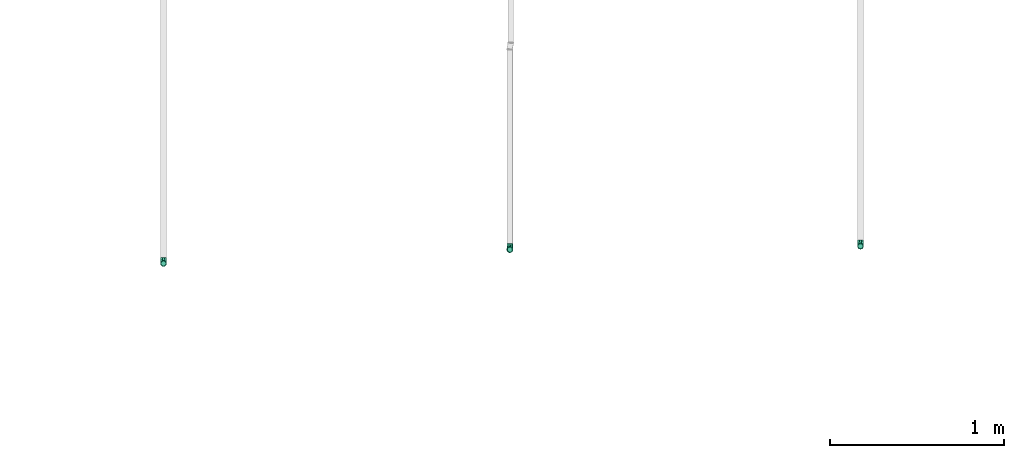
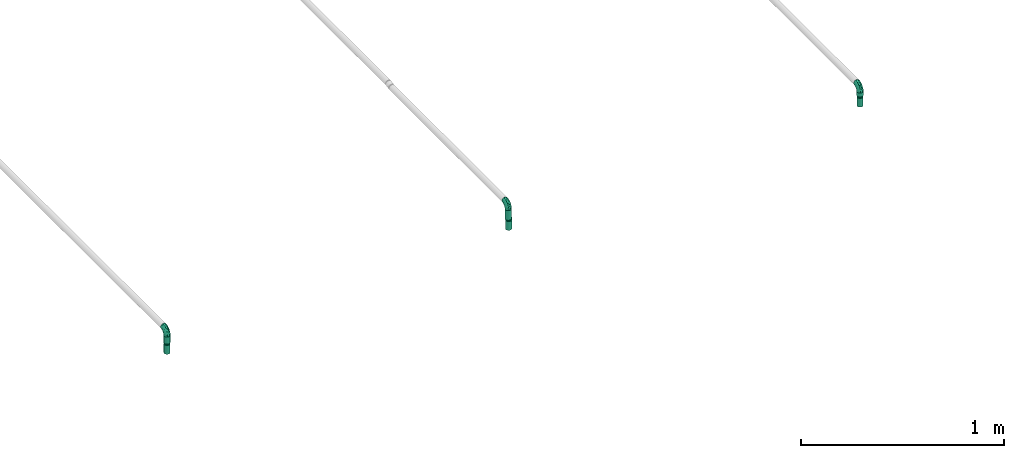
# One storey, part 18 of 32: 6 flow fittings, 3 flow segments, 3 flow terminals.
"""IFC2X3 building model written with IfcOpenShell, lengths in millimetres."""

from ifc_helpers import new_model, entity, si_unit, converted_unit, derived_unit, direction, frame, origin_with_axes, origin_2d_with_axis, place, context, subcontext, project, spatial, hollow_circle, extrude, open_shell, surface_model, source, transform, mapped, type_object, element, save


model = new_model("IFC2X3")

# Units and contexts
model_context = context("Model", 3, precision=0.01, world=frame((0.0, 4.29681676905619e-09, 0.0)), true_north=direction((4.01073788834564e-13, 1.0)))
plan_context = context("Plan", 3, precision=0.01, world=frame((0.0, 4.29681676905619e-09, 0.0)), true_north=direction((4.01073788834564e-13, 1.0)))
body_context = subcontext(model_context, "Body", "Model", "MODEL_VIEW")
ifc_project = project(units=[converted_unit("PLANEANGLEUNIT", "DEGREE", entity("IfcPositiveLengthMeasure", 0.0174532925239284), si_unit("PLANEANGLEUNIT", "RADIAN"), dimensions=[0, 0, 0, 0, 0, 0, 0]), si_unit("AREAUNIT", "SQUARE_METRE"), si_unit("LENGTHUNIT", "METRE", prefix="MILLI"), si_unit("MASSUNIT", "GRAM", prefix="KILO"), si_unit("POWERUNIT", "WATT"), si_unit("PRESSUREUNIT", "PASCAL", prefix="KILO"), si_unit("FORCEUNIT", "NEWTON", prefix="KILO"), si_unit("ELECTRICVOLTAGEUNIT", "VOLT"), si_unit("ELECTRICCURRENTUNIT", "AMPERE"), si_unit("THERMODYNAMICTEMPERATUREUNIT", "DEGREE_CELSIUS"), si_unit("TIMEUNIT", "SECOND"), si_unit("VOLUMEUNIT", "CUBIC_METRE"), derived_unit("LINEARVELOCITYUNIT", [(si_unit("LENGTHUNIT", "METRE"), 1), (si_unit("TIMEUNIT", "SECOND"), -1)]), derived_unit("VOLUMETRICFLOWRATEUNIT", [(si_unit("VOLUMEUNIT", "CUBIC_METRE"), 1), (si_unit("TIMEUNIT", "SECOND"), -1)]), derived_unit("THERMALTRANSMITTANCEUNIT", [(si_unit("POWERUNIT", "WATT"), 1), (si_unit("THERMODYNAMICTEMPERATUREUNIT", "KELVIN"), -1), (si_unit("AREAUNIT", "SQUARE_METRE"), -1)]), derived_unit("SOUNDPRESSUREUNIT", [(si_unit("PRESSUREUNIT", "PASCAL"), 1)])], contexts=[model_context, plan_context])

# Site, building, storey
site_placement = place(None, frame((0.0, -4.29681676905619e-09, 0.0), z_axis=(0.0, 0.0, 1.0), x_axis=(1.0, 0.0, 0.0)))
site = spatial("IfcSite", under=ifc_project, at=site_placement, CompositionType="ELEMENT")
building_placement = place(site_placement, frame((0.0, 4.29681676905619e-09, 0.0), z_axis=(0.0, 0.0, 1.0), x_axis=(1.0, 0.0, 0.0)))
building = spatial("IfcBuilding", under=site, at=building_placement, Name="mc-building", CompositionType="ELEMENT")
storey_placement = place(building_placement, frame((0.0, 0.0, 205200.0), z_axis=(0.0, 0.0, 1.0), x_axis=(1.0, 0.0, 0.0)))
storey = spatial("IfcBuildingStorey", under=building, at=storey_placement, Name="Nivå D + 1,2 m", CompositionType="ELEMENT", Elevation=205200.0)

# Flow fittings
pipe_fitting_type_1 = type_object("IfcPipeFittingType", Name="magi_pipe_fe_elbow_short_001", PredefinedType="BEND")
shared_shape_1 = source(origin_with_axes(), body_context, "Body", "SurfaceModel", [
    surface_model("IfcShellBasedSurfaceModel", [(-33.8, -11.9501, -11.9501), (-33.8, -14.63583, -8.45), (-33.8, -8.45, -14.63583), (-33.8, 0.0, -16.9), (-33.8, -4.37404, -16.32415), (-33.8, -16.32415, -4.37404), (-33.8, -16.9, 0.0), (-33.8, 11.9501, 11.9501), (-33.8, 14.63583, 8.45), (-33.8, 8.45, 14.63583), (-33.8, -11.9501, 11.9501), (-33.8, -8.45, 14.63583), (-33.8, -14.63583, 8.45), (-33.8, -16.32415, 4.37404), (-33.8, -4.37404, 16.32415), (-33.8, 0.0, 16.9), (-33.8, 16.9, 0.0), (-33.8, 16.32415, -4.37404), (-33.8, 16.32415, 4.37404), (-33.8, 4.37404, -16.32415), (-33.8, 8.45, -14.63583), (-33.8, 14.63583, -8.45), (-33.8, 11.9501, -11.9501), (-33.8, 4.37404, 16.32415), (-4.37404, 33.8, -16.32415), (16.9, 33.8, 0.0), (0.0, 33.8, -16.9), (-16.32415, 33.8, -4.37404), (-8.45, 33.8, -14.63583), (-14.63583, 33.8, -8.45), (-11.9501, 33.8, -11.9501), (16.32415, 33.8, 4.37404), (8.45, 33.8, -14.63583), (14.63583, 33.8, -8.45), (11.9501, 33.8, -11.9501), (4.37404, 33.8, -16.32415), (16.32415, 33.8, -4.37404), (-16.32415, 33.8, 4.37404), (-4.37404, 33.8, 16.32415), (-14.63583, 33.8, 8.45), (-8.45, 33.8, 14.63583), (-11.9501, 33.8, 11.9501), (14.63583, 33.8, 8.45), (8.45, 33.8, 14.63583), (11.9501, 33.8, 11.9501), (0.0, 33.8, 16.9), (4.37404, 33.8, 16.32415), (-16.9, 33.8, 0.0), (-24.79389, -13.12945, 9.48721), (-22.19287, -9.75018, 12.59315), (-24.09897, -14.97035, 0.0), (-14.93934, -10.76256, 8.5297), (-22.46095, -14.75051, 5.27077), (14.75051, 22.46094, 5.27077), (11.9251, 13.23888, 4.33236), (13.04069, 14.39795, 0.0), (7.71387, 13.68847, 11.55891), (9.75018, 22.19287, 12.59315), (4.10169, 13.0571, 14.04018), (-24.84007, -6.39063, 15.2048), (-25.81779, -2.23879, 16.61097), (-23.66549, 2.59054, 16.87119), (-26.50418, 14.06512, 11.08152), (-24.21253, 17.66365, 7.72657), (-29.58514, 15.86957, 7.00283), (-6.17382, -7.5455, 0.0), (-13.23888, -11.9251, 4.33236), (-14.39795, -13.04069, 0.0), (-17.81434, 18.87373, 11.97104), (-6.30846, 29.15138, 15.82987), (-2.31622, 25.28002, 16.85849), (-29.23923, 10.23435, 13.77053), (-1.45439, -2.85688, 7.61475), (-0.28326, 0.34872, 10.09509), (-5.74484, -4.04709, 10.4122), (-4.41137, 11.31918, 16.59407), (-8.39727, 3.10034, 15.7812), (-1.72649, 9.1306, 15.53089), (-17.39909, 24.75344, 7.64977), (-26.19233, 20.0512, 0.0), (-28.14518, 17.29657, 4.25857), (-26.05147, 6.6281, 15.96447), (-5.87354, 16.61944, 16.86968), (-12.51807, 12.51807, 16.48937), (-10.06312, 7.38516, 16.81295), (-3.01882, 3.01882, 13.81718), (-13.0571, -4.10169, 14.04018), (-16.82553, -0.15166, 16.38038), (10.76256, 14.93934, 8.5297), (13.12945, 24.79389, 9.48721), (6.39063, 24.84007, 15.2048), (2.23879, 25.81779, 16.61097), (-13.68847, -7.71387, 11.55891), (14.97035, 24.09897, 0.0), (-7.30894, 22.89991, 16.09489), (-10.67958, 26.17414, 14.008), (-12.78295, 18.26924, 15.06066), (-13.88562, 22.45231, 12.93244), (-18.04944, 15.16501, 14.04434), (-23.11658, 20.08178, 4.02986), (-21.84989, 21.84989, 0.0), (-18.55817, 25.48277, 3.93065), (-13.95142, 26.94732, 11.03289), (-18.57098, 7.23906, 16.59756), (-16.58335, 4.14122, 16.89279), (-17.96666, 11.46709, 15.63151), (-9.84453, 17.54304, 16.18938), (0.15166, 16.82553, 16.38038), (-23.27207, 11.47201, 14.23154), (3.84842, 5.86994, 10.70473), (-8.0212, -7.54413, 7.93275), (1.00345, -2.19508, 4.57414), (5.13203, 3.01004, 5.90201), (5.24161, 1.7543, 2.53265), (8.70457, 7.04947, 3.99182), (-20.0512, 26.19233, 0.0), (8.4852, 8.76699, 7.09296), (-4.55488, -6.72064, 4.90681), (2.05031, -2.05031, 0.0), (7.5455, 6.17382, 0.0), (-26.75399, 2.1369, -16.845), (-14.61995, 24.73803, -11.27736), (-28.45274, -13.45335, -9.81895), (-26.00469, 6.63555, -15.96645), (-23.06726, 20.04573, -4.26202), (-13.80647, -4.26506, -14.17873), (-14.67501, -0.21081, -16.07388), (-6.7902, -0.2828, -13.8478), (-24.53586, 11.08096, -14.13417), (-26.72048, 14.00837, -11.05776), (10.0967, 24.44989, -12.75976), (5.83237, 21.40218, -15.03047), (6.66249, 28.54238, -15.38093), (-20.38182, 15.48705, -12.74596), (12.53268, 21.23441, -9.15363), (12.54494, 15.67504, -5.54878), (9.7522, 12.89279, -8.66343), (-15.65186, 19.64213, -13.01327), (-12.03528, 20.66498, -14.67665), (-15.61907, 15.61906, -14.83879), (-25.56551, -15.26206, 0.0), (-24.65452, -15.12934, -5.50955), (13.45335, 28.45274, -9.81895), (15.12934, 24.65452, -5.50955), (-7.35442, -8.31014, -5.65563), (-15.67504, -12.54494, -5.54878), (-24.44989, -10.0967, -12.75976), (0.16522, 0.41303, -9.71728), (-5.70658, -5.33066, -8.89288), (-5.13869, -2.37198, -11.53565), (-21.23441, -12.53268, -9.15363), (0.71146, 7.93863, -14.09382), (0.21081, 14.67501, -16.07388), (3.49291, 14.42772, -14.76381), (-24.89911, -2.13088, -16.591), (-28.54238, -6.66249, -15.38093), (-18.44386, -7.71663, -13.26957), (2.13088, 24.89911, -16.591), (-28.64342, 17.44413, -2.89318), (1.70017, -1.28722, -5.09504), (-16.57067, 26.81947, -7.36596), (-17.69055, 27.4263, -3.76405), (-12.89279, -9.7522, -8.66343), (-5.96611, 5.96611, -15.95814), (-20.53709, 20.09345, -8.28985), (-2.1369, 26.75399, -16.845), (-6.89872, 24.58781, -16.02578), (-10.60739, 26.53157, -13.98044), (-21.40218, -5.83237, -15.03047), (2.93192, 5.89627, -11.55917), (6.89393, 12.61842, -11.82233), (5.58056, 5.95325, -8.79455), (-3.99512, 18.61798, -16.89635), (8.31014, 7.35442, -5.65563), (-9.1383, 9.86148, -16.89041), (-9.99983, 16.02119, -16.39699), (-16.68576, 9.78031, -16.34199), (-27.01915, 16.61158, -7.12979), (15.26206, 25.56551, 0.0), (-18.61798, 3.99512, -16.89635), (-19.37495, 27.82495, 0.0), (-12.61842, -6.89393, -11.82233), (-18.84705, 19.14018, -10.96545)], [open_shell([[[0, 1, 2]], [[3, 4, 2]], [[5, 6, 1]], [[7, 8, 9]], [[10, 11, 12]], [[13, 12, 11]], [[14, 15, 11]], [[16, 17, 18]], [[3, 6, 19]], [[20, 19, 17]], [[20, 17, 21]], [[22, 20, 21]], [[17, 19, 6]], [[2, 1, 6]], [[2, 6, 3]], [[6, 18, 17]], [[23, 18, 6]], [[8, 18, 23]], [[8, 23, 9]], [[13, 23, 6]], [[23, 13, 11]], [[11, 15, 23]], [[24, 25, 26]], [[27, 24, 28]], [[29, 27, 28]], [[29, 28, 30]], [[31, 25, 24]], [[32, 33, 34]], [[32, 35, 26]], [[33, 25, 36]], [[33, 32, 26]], [[25, 33, 26]], [[24, 27, 37]], [[31, 24, 37]], [[38, 37, 39]], [[40, 38, 39]], [[40, 39, 41]], [[31, 37, 38]], [[42, 43, 44]], [[43, 42, 31]], [[43, 45, 46]], [[43, 31, 38]], [[38, 45, 43]], [[37, 27, 47]], [[10, 48, 49]], [[13, 6, 50]], [[51, 48, 52]], [[53, 54, 55]], [[48, 10, 12]], [[13, 52, 12]], [[56, 57, 58]], [[49, 11, 10]], [[49, 59, 11]], [[15, 60, 61]], [[62, 63, 64]], [[65, 66, 67]], [[57, 44, 43]], [[62, 68, 63]], [[38, 69, 70]], [[9, 71, 7]], [[14, 60, 15]], [[72, 73, 74]], [[75, 76, 77]], [[7, 62, 8]], [[39, 37, 78]], [[79, 16, 80]], [[64, 18, 8]], [[15, 61, 23]], [[23, 81, 9]], [[82, 83, 84]], [[74, 85, 86]], [[59, 86, 87]], [[88, 89, 57]], [[90, 43, 46]], [[42, 53, 31]], [[46, 45, 91]], [[54, 53, 88]], [[42, 89, 53]], [[92, 86, 49]], [[89, 42, 44]], [[11, 59, 14]], [[53, 55, 93]], [[93, 31, 53]], [[66, 52, 67]], [[94, 82, 70]], [[95, 96, 94]], [[97, 98, 96]], [[79, 99, 100]], [[40, 41, 95]], [[101, 100, 99]], [[68, 78, 63]], [[38, 40, 69]], [[16, 18, 80]], [[95, 94, 69]], [[78, 101, 99]], [[41, 102, 95]], [[70, 45, 38]], [[97, 95, 102]], [[13, 50, 52]], [[90, 57, 43]], [[57, 90, 58]], [[81, 23, 61]], [[103, 104, 84]], [[105, 81, 103]], [[41, 39, 102]], [[106, 96, 83]], [[94, 106, 82]], [[91, 70, 107]], [[71, 62, 7]], [[62, 108, 98]], [[86, 59, 49]], [[67, 52, 50]], [[60, 59, 87]], [[92, 49, 51]], [[86, 85, 76]], [[91, 90, 46]], [[25, 31, 93]], [[107, 77, 58]], [[107, 58, 90]], [[58, 85, 109]], [[110, 74, 92]], [[72, 74, 110]], [[66, 51, 52]], [[72, 111, 112]], [[113, 114, 112]], [[56, 88, 57]], [[52, 48, 12]], [[49, 48, 51]], [[57, 89, 44]], [[53, 89, 88]], [[103, 81, 61]], [[71, 81, 108]], [[18, 64, 80]], [[63, 78, 99]], [[47, 115, 101]], [[101, 115, 100]], [[39, 78, 102]], [[68, 102, 78]], [[97, 96, 95]], [[105, 98, 108]], [[103, 84, 83]], [[107, 70, 82]], [[76, 84, 87]], [[82, 84, 75]], [[70, 91, 45]], [[90, 91, 107]], [[59, 60, 14]], [[61, 60, 87]], [[73, 85, 74]], [[109, 112, 116]], [[103, 61, 104]], [[105, 103, 83]], [[96, 105, 83]], [[81, 105, 108]], [[96, 98, 105]], [[62, 98, 68]], [[61, 87, 104]], [[87, 84, 104]], [[86, 76, 87]], [[77, 76, 85]], [[58, 77, 85]], [[75, 77, 107]], [[82, 75, 107]], [[76, 75, 84]], [[81, 71, 9]], [[62, 71, 108]], [[95, 69, 40]], [[70, 69, 94]], [[62, 64, 8]], [[80, 63, 99]], [[63, 80, 64]], [[80, 99, 79]], [[66, 65, 117]], [[110, 66, 117]], [[112, 114, 116]], [[118, 117, 65]], [[110, 92, 51]], [[112, 111, 113]], [[119, 55, 54]], [[74, 86, 92]], [[58, 109, 56]], [[116, 56, 109]], [[66, 110, 51]], [[72, 110, 117]], [[111, 72, 117]], [[73, 112, 109]], [[117, 118, 111]], [[113, 111, 118]], [[118, 119, 113]], [[114, 119, 54]], [[119, 114, 113]], [[116, 54, 88]], [[54, 116, 114]], [[116, 88, 56]], [[112, 73, 72]], [[85, 73, 109]], [[78, 37, 101]], [[47, 101, 37]], [[102, 68, 97]], [[97, 68, 98]], [[82, 106, 83]], [[94, 96, 106]], [[19, 120, 3]], [[29, 30, 121]], [[0, 122, 1]], [[20, 123, 19]], [[100, 124, 79]], [[125, 126, 127]], [[128, 22, 129]], [[130, 131, 132]], [[128, 129, 133]], [[134, 135, 136]], [[137, 138, 139]], [[128, 20, 22]], [[67, 140, 141]], [[134, 142, 143]], [[141, 5, 1]], [[144, 65, 145]], [[146, 0, 2]], [[147, 148, 149]], [[145, 141, 150]], [[151, 152, 153]], [[154, 4, 3]], [[2, 155, 146]], [[150, 146, 156]], [[155, 2, 4]], [[143, 135, 134]], [[35, 157, 26]], [[16, 79, 158]], [[148, 159, 144]], [[160, 161, 27]], [[145, 162, 144]], [[163, 152, 151]], [[27, 29, 160]], [[121, 164, 160]], [[32, 34, 130]], [[26, 165, 24]], [[24, 165, 166]], [[142, 34, 33]], [[30, 28, 167]], [[124, 161, 164]], [[157, 35, 132]], [[155, 154, 168]], [[123, 20, 128]], [[169, 170, 171]], [[172, 157, 152]], [[24, 166, 28]], [[132, 35, 32]], [[142, 130, 34]], [[168, 154, 126]], [[136, 135, 173]], [[133, 137, 139]], [[22, 21, 129]], [[170, 131, 130]], [[33, 36, 143]], [[172, 174, 175]], [[176, 123, 128]], [[158, 177, 17]], [[135, 55, 119]], [[167, 28, 166]], [[175, 166, 172]], [[137, 167, 138]], [[122, 141, 1]], [[140, 6, 5]], [[36, 25, 178]], [[170, 130, 134]], [[152, 157, 131]], [[165, 157, 172]], [[153, 170, 151]], [[152, 163, 174]], [[168, 125, 156]], [[122, 146, 150]], [[120, 154, 3]], [[179, 174, 126]], [[179, 126, 154]], [[126, 163, 127]], [[162, 145, 150]], [[140, 5, 141]], [[36, 178, 143]], [[55, 143, 178]], [[177, 129, 21]], [[128, 133, 139]], [[176, 128, 139]], [[120, 123, 179]], [[121, 160, 29]], [[161, 100, 180]], [[166, 175, 138]], [[121, 30, 167]], [[161, 47, 27]], [[79, 124, 158]], [[124, 164, 177]], [[161, 124, 100]], [[136, 171, 170]], [[127, 163, 151]], [[147, 171, 159]], [[148, 144, 162]], [[127, 151, 169]], [[127, 181, 125]], [[129, 177, 164]], [[21, 17, 177]], [[159, 65, 144]], [[67, 141, 145]], [[143, 55, 135]], [[135, 119, 173]], [[123, 120, 19]], [[154, 120, 179]], [[157, 165, 26]], [[166, 165, 172]], [[172, 152, 174]], [[176, 139, 175]], [[126, 174, 163]], [[176, 174, 179]], [[174, 176, 175]], [[123, 176, 179]], [[150, 181, 162]], [[127, 149, 181]], [[181, 148, 162]], [[159, 148, 147]], [[171, 136, 173]], [[170, 134, 136]], [[159, 171, 173]], [[171, 147, 169]], [[169, 147, 149]], [[151, 170, 169]], [[164, 182, 129]], [[182, 121, 137]], [[181, 149, 148]], [[169, 149, 127]], [[182, 137, 133]], [[167, 137, 121]], [[166, 138, 167]], [[175, 139, 138]], [[129, 182, 133]], [[121, 182, 164]], [[161, 160, 164]], [[47, 161, 180]], [[177, 158, 124]], [[16, 158, 17]], [[130, 132, 32]], [[157, 132, 131]], [[143, 142, 33]], [[130, 142, 134]], [[154, 155, 4]], [[146, 155, 168]], [[146, 122, 0]], [[141, 122, 150]], [[152, 131, 153]], [[159, 119, 118]], [[67, 145, 65]], [[170, 153, 131]], [[119, 159, 173]], [[159, 118, 65]], [[156, 125, 181]], [[126, 125, 168]], [[150, 156, 181]], [[168, 156, 146]]])]),
])
for number, where, z_axis, x_axis, name in (
    (1, (345472.5, 460358.43146, 4434.19579999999), (1.0, 0.0, 0.0), (0.0, -1.0, 0.0), "magi_pipe_fe_elbow_short_001"),
    (2, (343457.5, 460338.43146, 4444.43145999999), (1.0, 0.0, 0.0), (0.0, -1.0, 0.0), "magi_pipe_fe_elbow_short_001"),
    (3, (341467.5, 460258.43146, 4428.76157999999), (-1.0, 0.0, 0.0), (0.0, 0.0, 1.0), "magi_pipe_fe_elbow_short_001"),
):
    element("IfcFlowFitting", number, at=place(storey_placement, frame(where, z_axis=z_axis, x_axis=x_axis)), inside=storey, type_object=pipe_fitting_type_1, Name=name, context=body_context, shape_type="MappedRepresentation", body=[
        mapped(shared_shape_1, transform((0.0, 0.0, 0.0), scale=1.0)),
    ])
pipe_fitting_type_2 = type_object("IfcPipeFittingType", Name="magi_pipe_fe_reducer_centric_short_001", PredefinedType="TRANSITION")
shared_shape_2 = source(origin_with_axes(), body_context, "Body", "SurfaceModel", [
    surface_model("IfcShellBasedSurfaceModel", [(-2.0, 11.9501, 11.9501), (-2.0, 0.0, 16.9), (-2.0, 4.37404, 16.32415), (-2.0, 8.45, 14.63583), (-2.0, 14.63583, 8.45), (-2.0, 16.32415, 4.37404), (-2.0, -16.32415, 4.37404), (-2.0, -8.45, 14.63583), (-2.0, -14.63583, 8.45), (-2.0, -11.9501, 11.9501), (-2.0, -4.37404, 16.32415), (-2.0, -16.32415, -4.37404), (-2.0, -16.9, 0.0), (-2.0, -8.45, -14.63583), (-2.0, 16.32415, -4.37404), (-2.0, 11.9501, -11.9501), (-2.0, 14.63583, -8.45), (-2.0, 8.45, -14.63583), (-2.0, 4.37404, -16.32415), (-2.0, 0.0, -16.9), (-2.0, -11.9501, -11.9501), (-2.0, -14.63583, -8.45), (-2.0, -4.37404, -16.32415), (-2.0, 16.9, 0.0), (0.0, 4.37404, -16.32415), (0.0, 8.45, -14.63583), (0.0, 11.9501, -11.9501), (0.0, 0.0, -16.9), (0.0, 16.32415, -4.37404), (0.0, 16.32415, 4.37404), (0.0, 14.63583, -8.45), (0.0, -8.45, -14.63583), (0.0, -4.37404, -16.32415), (0.0, -11.9501, -11.9501), (0.0, -16.32415, -4.37404), (0.0, -14.63583, -8.45), (0.0, -16.32415, 4.37404), (0.0, 16.9, 0.0), (0.0, 14.63583, 8.45), (0.0, 11.9501, 11.9501), (0.0, 4.37404, 16.32415), (0.0, 8.45, 14.63583), (0.0, 0.0, 16.9), (0.0, -14.63583, 8.45), (0.0, -16.9, 0.0), (0.0, -8.45, 14.63583), (0.0, -11.9501, 11.9501), (0.0, -4.37404, 16.32415), (14.4, 5.35, -9.26647), (14.4, 0.0, -10.7), (14.4, 2.76936, -10.33541), (14.4, 10.33541, -2.76936), (14.4, 7.56604, -7.56604), (14.4, -5.35, -9.26647), (14.4, 9.26647, -5.35), (14.4, -9.26647, 5.35), (14.4, -2.76936, -10.33541), (14.4, -7.56604, -7.56604), (14.4, -10.33541, -2.76936), (14.4, -9.26647, -5.35), (14.4, 10.33541, 2.76936), (14.4, 10.7, 0.0), (14.4, 9.26647, 5.35), (14.4, 7.56604, 7.56604), (14.4, 2.76936, 10.33541), (14.4, 0.0, 10.7), (14.4, 5.35, 9.26647), (14.4, -10.33541, 2.76936), (14.4, -10.7, 0.0), (14.4, -7.56604, 7.56604), (14.4, -2.76936, 10.33541), (14.4, -5.35, 9.26647), (12.4, 0.0, 10.7), (12.4, 2.76936, 10.33541), (12.4, 5.35, 9.26647), (12.4, 7.56604, 7.56604), (12.4, 9.26647, 5.35), (12.4, 10.33541, 2.76936), (12.4, -10.33541, 2.76936), (12.4, 10.33541, -2.76936), (12.4, -2.76936, 10.33541), (12.4, -7.56604, 7.56604), (12.4, -5.35, 9.26647), (12.4, -9.26647, 5.35), (12.4, -10.33541, -2.76936), (12.4, -10.7, 0.0), (12.4, 2.76936, -10.33541), (12.4, 9.26647, -5.35), (12.4, 7.56604, -7.56604), (12.4, 5.35, -9.26647), (12.4, -7.56604, -7.56604), (12.4, -9.26647, -5.35), (12.4, -5.35, -9.26647), (12.4, 0.0, -10.7), (12.4, -2.76936, -10.33541), (12.4, 10.7, 0.0), (12.4, 9.3625, -2.31662), (0.0, 14.42505, -5.97505), (0.0, 15.66253, -2.98753), (12.4, -6.6875, -6.94985), (0.0, -13.18758, -8.96258), (0.0, 2.98753, -15.66253), (12.4, 0.0, -9.26647), (12.4, 6.6875, -6.94985), (0.0, 8.96258, -13.18758), (12.4, -9.3625, -2.31662), (0.0, -15.66253, -2.98753), (0.0, -14.42505, -5.97505), (0.0, 5.97505, -14.42505), (0.0, -2.98753, -15.66253), (0.0, -8.96258, -13.18758), (0.0, 13.18758, -8.96258), (12.4, 8.025, -4.63324), (12.4, -2.675, -9.26647), (12.4, 2.675, -9.26647), (0.0, -5.97505, -14.42505), (12.4, -8.025, -4.63324), (12.4, -9.3625, 2.31662), (0.0, -14.42505, 5.97505), (0.0, -15.66253, 2.98753), (12.4, 6.6875, 6.94985), (0.0, 13.18758, 8.96258), (0.0, -2.98753, 15.66253), (12.4, 0.0, 9.26647), (12.4, -6.6875, 6.94985), (0.0, -8.96258, 13.18758), (12.4, 9.3625, 2.31662), (0.0, 15.66253, 2.98753), (0.0, 14.42505, 5.97505), (0.0, -5.97505, 14.42505), (0.0, 2.98753, 15.66253), (0.0, 8.96258, 13.18758), (0.0, -13.18758, 8.96258), (12.4, -8.025, 4.63324), (12.4, 2.675, 9.26647), (12.4, -2.675, 9.26647), (0.0, 5.97505, 14.42505), (12.4, 8.025, 4.63324)], [open_shell([[[0, 1, 2]], [[0, 2, 3]], [[0, 4, 5]], [[0, 5, 1]], [[1, 5, 6]], [[7, 8, 9]], [[7, 10, 1]], [[8, 7, 1]], [[1, 6, 8]], [[6, 11, 12]], [[6, 5, 13]], [[5, 14, 15]], [[15, 14, 16]], [[15, 17, 18]], [[13, 5, 15]], [[19, 15, 18]], [[11, 20, 21]], [[20, 11, 13]], [[13, 19, 22]], [[11, 6, 13]], [[15, 19, 13]], [[5, 23, 14]], [[24, 25, 26]], [[27, 24, 26]], [[26, 28, 29]], [[28, 26, 30]], [[26, 29, 31]], [[27, 31, 32]], [[27, 26, 31]], [[33, 34, 35]], [[34, 33, 31]], [[31, 36, 34]], [[29, 28, 37]], [[29, 38, 39]], [[29, 39, 40]], [[40, 36, 31]], [[40, 39, 41]], [[36, 40, 42]], [[42, 43, 36]], [[44, 34, 36]], [[43, 45, 46]], [[43, 42, 45]], [[45, 42, 47]], [[31, 29, 40]], [[11, 34, 12]], [[21, 35, 11]], [[31, 20, 13]], [[21, 20, 33]], [[32, 13, 22]], [[11, 35, 34]], [[34, 44, 12]], [[32, 31, 13]], [[33, 20, 31]], [[33, 35, 21]], [[27, 32, 22]], [[22, 19, 27]], [[18, 24, 19]], [[17, 25, 18]], [[30, 15, 16]], [[17, 15, 26]], [[28, 16, 14]], [[17, 26, 25]], [[25, 24, 18]], [[37, 28, 14]], [[30, 16, 28]], [[30, 26, 15]], [[23, 37, 14]], [[19, 24, 27]], [[5, 29, 23]], [[4, 38, 5]], [[41, 0, 3]], [[4, 0, 39]], [[40, 3, 2]], [[5, 38, 29]], [[29, 37, 23]], [[40, 41, 3]], [[39, 0, 41]], [[39, 38, 4]], [[42, 40, 2]], [[2, 1, 42]], [[10, 47, 1]], [[7, 45, 10]], [[43, 9, 8]], [[7, 9, 46]], [[36, 8, 6]], [[7, 46, 45]], [[45, 47, 10]], [[44, 36, 6]], [[43, 8, 36]], [[43, 46, 9]], [[12, 44, 6]], [[1, 47, 42]], [[33, 44, 27]], [[48, 49, 50]], [[51, 48, 52]], [[53, 48, 51]], [[51, 52, 54]], [[55, 53, 51]], [[49, 53, 56]], [[49, 48, 53]], [[57, 58, 59]], [[58, 57, 53]], [[53, 55, 58]], [[60, 51, 61]], [[60, 62, 63]], [[51, 63, 55]], [[64, 65, 63]], [[64, 63, 66]], [[55, 63, 65]], [[58, 67, 68]], [[55, 67, 58]], [[69, 70, 71]], [[70, 69, 55]], [[65, 70, 55]], [[51, 60, 63]], [[72, 73, 74]], [[72, 74, 75]], [[75, 76, 77]], [[72, 75, 78]], [[79, 78, 75]], [[80, 81, 82]], [[81, 80, 78]], [[81, 78, 83]], [[80, 72, 78]], [[78, 84, 85]], [[79, 75, 77]], [[84, 78, 79]], [[86, 79, 87]], [[88, 89, 86]], [[88, 86, 87]], [[84, 79, 86]], [[84, 90, 91]], [[90, 84, 92]], [[92, 93, 94]], [[92, 84, 86]], [[86, 93, 92]], [[79, 77, 95]], [[84, 58, 85]], [[91, 59, 84]], [[53, 90, 92]], [[91, 90, 57]], [[56, 92, 94]], [[84, 59, 58]], [[58, 68, 85]], [[56, 53, 92]], [[57, 90, 53]], [[57, 59, 91]], [[49, 56, 94]], [[94, 93, 49]], [[86, 50, 93]], [[89, 48, 86]], [[54, 88, 87]], [[89, 88, 52]], [[51, 87, 79]], [[89, 52, 48]], [[48, 50, 86]], [[61, 51, 79]], [[54, 87, 51]], [[54, 52, 88]], [[95, 61, 79]], [[93, 50, 49]], [[77, 60, 95]], [[76, 62, 77]], [[66, 75, 74]], [[76, 75, 63]], [[64, 74, 73]], [[77, 62, 60]], [[60, 61, 95]], [[64, 66, 74]], [[63, 75, 66]], [[63, 62, 76]], [[65, 64, 73]], [[73, 72, 65]], [[80, 70, 72]], [[82, 71, 80]], [[55, 81, 83]], [[82, 81, 69]], [[67, 83, 78]], [[82, 69, 71]], [[71, 70, 80]], [[68, 67, 78]], [[55, 83, 67]], [[55, 69, 81]], [[85, 68, 78]], [[72, 70, 65]], [[74, 82, 95]], [[95, 82, 92]], [[92, 89, 95]], [[92, 82, 85]], [[42, 39, 44]], [[44, 46, 42]], [[39, 26, 44]], [[27, 44, 26]], [[26, 39, 37]], [[96, 97, 98]], [[33, 99, 100]], [[101, 102, 27]], [[98, 37, 95]], [[26, 103, 104]], [[104, 103, 89]], [[105, 106, 107]], [[89, 108, 104]], [[102, 109, 27]], [[110, 99, 33]], [[95, 96, 98]], [[103, 111, 112]], [[109, 102, 113]], [[85, 44, 106]], [[102, 101, 114]], [[110, 115, 92]], [[96, 112, 97]], [[107, 116, 105]], [[85, 106, 105]], [[113, 115, 109]], [[92, 115, 113]], [[116, 107, 100]], [[108, 89, 114]], [[111, 103, 26]], [[111, 97, 112]], [[99, 110, 92]], [[116, 100, 99]], [[101, 108, 114]], [[117, 118, 119]], [[39, 120, 121]], [[122, 123, 42]], [[119, 44, 85]], [[46, 124, 125]], [[125, 124, 82]], [[126, 127, 128]], [[82, 129, 125]], [[123, 130, 42]], [[131, 120, 39]], [[85, 117, 119]], [[124, 132, 133]], [[130, 123, 134]], [[95, 37, 127]], [[123, 122, 135]], [[131, 136, 74]], [[117, 133, 118]], [[128, 137, 126]], [[95, 127, 126]], [[134, 136, 130]], [[74, 136, 134]], [[137, 128, 121]], [[129, 82, 135]], [[132, 124, 46]], [[132, 118, 133]], [[120, 131, 74]], [[137, 121, 120]], [[122, 129, 135]]])]),
])
for number, where, z_axis, x_axis, name in (
    (4, (345472.5, 460358.43146, 4377.78346000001), (1.0, 0.0, 0.0), (0.0, 0.0, -1.0), "magi_pipe_fe_reducer_centric_short_001"),
    (5, (343460.0, 460338.43146, 4352.78346000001), (1.0, 0.0, 0.0), (0.0, 0.0, -1.0), "magi_pipe_fe_reducer_centric_short_001"),
    (6, (341467.5, 460258.43146, 4352.78346000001), (1.0, 0.0, 0.0), (0.0, 0.0, -1.0), "magi_pipe_fe_reducer_centric_short_001"),
):
    element("IfcFlowFitting", number, at=place(storey_placement, frame(where, z_axis=z_axis, x_axis=x_axis)), inside=storey, type_object=pipe_fitting_type_2, Name=name, context=body_context, shape_type="MappedRepresentation", body=[
        mapped(shared_shape_2, transform((0.0, 0.0, 0.0), scale=1.0)),
    ])

# Flow segments
pipe_segment_type = type_object("IfcPipeSegmentType", Name="Stålrør normaltykke", PredefinedType="RIGIDSEGMENT")
shared_shape_3 = source(origin_with_axes(), body_context, "Body", "SweptSolid", [
    extrude(hollow_circle(Radius=16.9, WallThickness=2.0, at=origin_2d_with_axis()), frame((0.0, 0.0, 0.0), z_axis=(1.0, 0.0, 0.0), x_axis=(0.0, 1.0, 0.0)), (0.0, 0.0, 1.0), 22.6),
])
flow_segment_1_placement = place(storey_placement, frame((345472.5, 460358.43146, 4400.3958), z_axis=(-1.0, 0.0, 0.0), x_axis=(0.0, 0.0, -1.0)))
element("IfcFlowSegment", 7, at=flow_segment_1_placement, inside=storey, type_object=pipe_segment_type, Name="Stålrør normaltykke", context=body_context, shape_type="MappedRepresentation", body=[
    mapped(shared_shape_3, transform((0.0, 0.0, 0.0), scale=1.0)),
])
shared_shape_4 = source(origin_with_axes(), body_context, "Body", "SweptSolid", [
    extrude(hollow_circle(Radius=16.9, WallThickness=2.0, at=origin_2d_with_axis()), frame((0.0, 0.0, 0.0), z_axis=(1.0, 0.0, 0.0), x_axis=(0.0, 1.0, 0.0)), (0.0, 0.0, 1.0), 57.8),
])
flow_segment_2_placement = place(storey_placement, frame((343457.5, 460338.43146, 4410.63146), z_axis=(-1.0, 0.0, 0.0), x_axis=(0.0, 0.0, -1.0)))
element("IfcFlowSegment", 8, at=flow_segment_2_placement, inside=storey, type_object=pipe_segment_type, Name="Stålrør normaltykke", context=body_context, shape_type="MappedRepresentation", body=[
    mapped(shared_shape_4, transform((0.0, 0.0, 0.0), scale=1.0)),
])
shared_shape_5 = source(origin_with_axes(), body_context, "Body", "SweptSolid", [
    extrude(hollow_circle(Radius=16.9, WallThickness=2.0, at=origin_2d_with_axis()), frame((0.0, 0.0, 0.0), z_axis=(1.0, 0.0, 0.0), x_axis=(0.0, 1.0, 0.0)), (0.0, 0.0, 1.0), 42.2),
])
flow_segment_3_placement = place(storey_placement, frame((341467.5, 460258.43146, 4394.96158), z_axis=(-1.0, 0.0, 0.0), x_axis=(0.0, 0.0, -1.0)))
element("IfcFlowSegment", 9, at=flow_segment_3_placement, inside=storey, type_object=pipe_segment_type, Name="Stålrør normaltykke", context=body_context, shape_type="MappedRepresentation", body=[
    mapped(shared_shape_5, transform((0.0, 0.0, 0.0), scale=1.0)),
])

# Flow terminals
fire_suppression_terminal_type = type_object("IfcFireSuppressionTerminalType", Name="SP-15-K80-68DGR-STD-NEDOVER", PredefinedType="NOTDEFINED")
shared_shape_6 = source(origin_with_axes(), body_context, "Body", "SurfaceModel", [
    surface_model("IfcShellBasedSurfaceModel", [(4.1411, -15.45481, 53.0), (8.0, -13.85641, 53.0), (11.31371, -11.31371, 53.0), (-8.0, -13.85641, 53.0), (15.45481, -4.1411, 53.0), (16.0, 0.0, 53.0), (13.85641, -8.0, 53.0), (0.0, -16.0, 53.0), (-4.1411, -15.45481, 53.0), (-13.85641, -8.0, 53.0), (-11.31371, -11.31371, 53.0), (-15.45481, -4.1411, 53.0), (15.45481, 4.1411, 53.0), (13.85641, 8.0, 53.0), (11.31371, 11.31371, 53.0), (-4.1411, 15.45481, 53.0), (8.0, 13.85641, 53.0), (4.1411, 15.45481, 53.0), (0.0, 16.0, 53.0), (-13.85641, 8.0, 53.0), (-15.45481, 4.1411, 53.0), (-16.0, 0.0, 53.0), (-11.31371, 11.31371, 53.0), (-8.0, 13.85641, 53.0), (0.0, 16.0, 0.0), (4.1411, 15.45481, 0.0), (8.0, 13.85641, 0.0), (-4.1411, 15.45481, 0.0), (11.31371, 11.31371, 0.0), (13.85641, 8.0, 0.0), (15.45481, 4.1411, 0.0), (-15.45481, -4.1411, 0.0), (-11.31371, 11.31371, 0.0), (-8.0, 13.85641, 0.0), (-13.85641, 8.0, 0.0), (-15.45481, 4.1411, 0.0), (-16.0, 0.0, 0.0), (4.1411, -15.45481, 0.0), (16.0, 0.0, 0.0), (15.45481, -4.1411, 0.0), (13.85641, -8.0, 0.0), (11.31371, -11.31371, 0.0), (8.0, -13.85641, 0.0), (-8.0, -13.85641, 0.0), (-13.85641, -8.0, 0.0), (-11.31371, -11.31371, 0.0), (0.0, -16.0, 0.0), (-4.1411, -15.45481, 0.0)], [open_shell([[[0, 1, 2]], [[3, 0, 2]], [[4, 5, 2]], [[4, 2, 6]], [[3, 2, 5]], [[7, 3, 8]], [[7, 0, 3]], [[3, 9, 10]], [[9, 3, 11]], [[5, 11, 3]], [[5, 12, 11]], [[12, 13, 14]], [[15, 12, 14]], [[16, 17, 18]], [[14, 16, 15]], [[18, 15, 16]], [[11, 19, 20]], [[21, 11, 20]], [[22, 15, 23]], [[15, 22, 19]], [[19, 11, 15]], [[11, 12, 15]], [[24, 25, 26]], [[27, 24, 26]], [[28, 29, 30]], [[27, 26, 28]], [[27, 28, 31]], [[27, 32, 33]], [[32, 27, 34]], [[34, 31, 35]], [[31, 34, 27]], [[35, 31, 36]], [[28, 30, 31]], [[37, 38, 39]], [[37, 39, 40]], [[41, 42, 37]], [[41, 37, 40]], [[38, 37, 43]], [[44, 43, 45]], [[43, 44, 31]], [[43, 46, 47]], [[43, 31, 38]], [[37, 46, 43]], [[38, 31, 30]], [[11, 31, 44]], [[45, 9, 44]], [[3, 43, 47]], [[45, 43, 10]], [[8, 47, 46]], [[31, 21, 36]], [[31, 11, 21]], [[44, 9, 11]], [[45, 10, 9]], [[3, 10, 43]], [[47, 8, 3]], [[46, 7, 8]], [[0, 37, 42]], [[41, 1, 42]], [[6, 40, 39]], [[41, 40, 2]], [[4, 39, 38]], [[37, 0, 7]], [[42, 1, 0]], [[41, 2, 1]], [[40, 6, 2]], [[4, 6, 39]], [[38, 5, 4]], [[37, 7, 46]], [[12, 38, 30]], [[13, 30, 29]], [[16, 26, 25]], [[17, 25, 24]], [[30, 13, 12]], [[12, 5, 38]], [[28, 14, 13]], [[28, 26, 14]], [[14, 26, 16]], [[25, 17, 16]], [[28, 13, 29]], [[24, 18, 17]], [[15, 27, 33]], [[32, 23, 33]], [[19, 34, 35]], [[32, 34, 22]], [[20, 35, 36]], [[27, 15, 18]], [[33, 23, 15]], [[32, 22, 23]], [[34, 19, 22]], [[20, 19, 35]], [[36, 21, 20]], [[27, 18, 24]]])]),
])
for number, where, z_axis, x_axis in (
    (10, (345472.5, 460358.43146, 4368.43145999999), (0.0, 0.0, -1.0), (1.0, 0.0, 0.0)),
    (11, (343460.0, 460338.43146, 4343.43145999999), (0.0, 0.0, -1.0), (1.0, 0.0, 0.0)),
    (12, (341467.5, 460258.43146, 4343.43145999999), (0.0, 0.0, -1.0), (1.0, 0.0, 0.0)),
):
    element("IfcFlowTerminal", number, at=place(storey_placement, frame(where, z_axis=z_axis, x_axis=x_axis)), inside=storey, type_object=fire_suppression_terminal_type, Name="SP-15-K80-68DGR-STD-NEDOVER", context=body_context, shape_type="MappedRepresentation", body=[
        mapped(shared_shape_6, transform((0.0, 0.0, 0.0), scale=1.0)),
    ])

save(model, "model.ifc")
